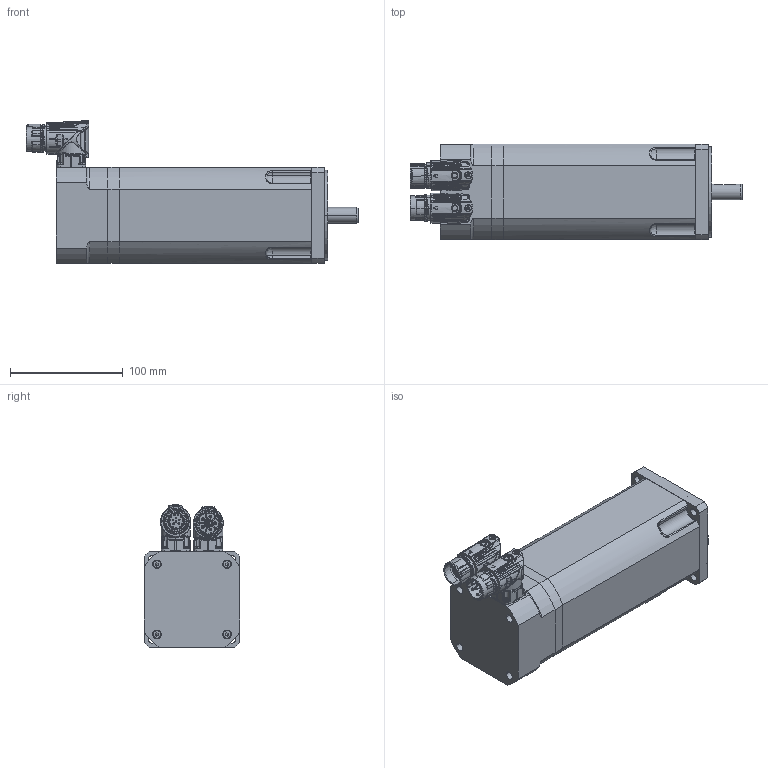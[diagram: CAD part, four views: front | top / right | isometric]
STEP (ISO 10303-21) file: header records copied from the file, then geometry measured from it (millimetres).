
FILE_DESCRIPTION(('CATIA V5 STEP Exchange'),'2;1');
FILE_NAME('C:\Documents and Settings\max\Documenti\sangallimotori\3d step\tg3\motore_DSM5_33_Freno.stp','2010-12-12T17:30:46+00:00',('none'),('none'),'CATIA Version 5 Release 10 (IN-8)','CATIA V5 STEP AP203',' none');
FILE_SCHEMA(('CONFIG_CONTROL_DESIGN'));
Assembly tree (27 placements, depth 0):
Bounding box: 294.71 x 85 x 126.43 mm (x, y, z)
Volume: 1589164.8 mm3; surface area: 159444.8 mm2
Topology: 23 solids, 28 shells, 4107 faces, 13917 edges, 9832 vertices
Faces by surface type: cylinder 1492, bspline 1326, plane 591, torus 348, cone 233, sphere 109, revolution 8
Entity records: 254899 total; most frequent: CARTESIAN_POINT 165131, ORIENTED_EDGE 25414, EDGE_CURVE 12764, VERTEX_POINT 9182, DIRECTION 8725, B_SPLINE_CURVE_WITH_KNOTS 7926, AXIS2_PLACEMENT_3D 4353, EDGE_LOOP 3819
